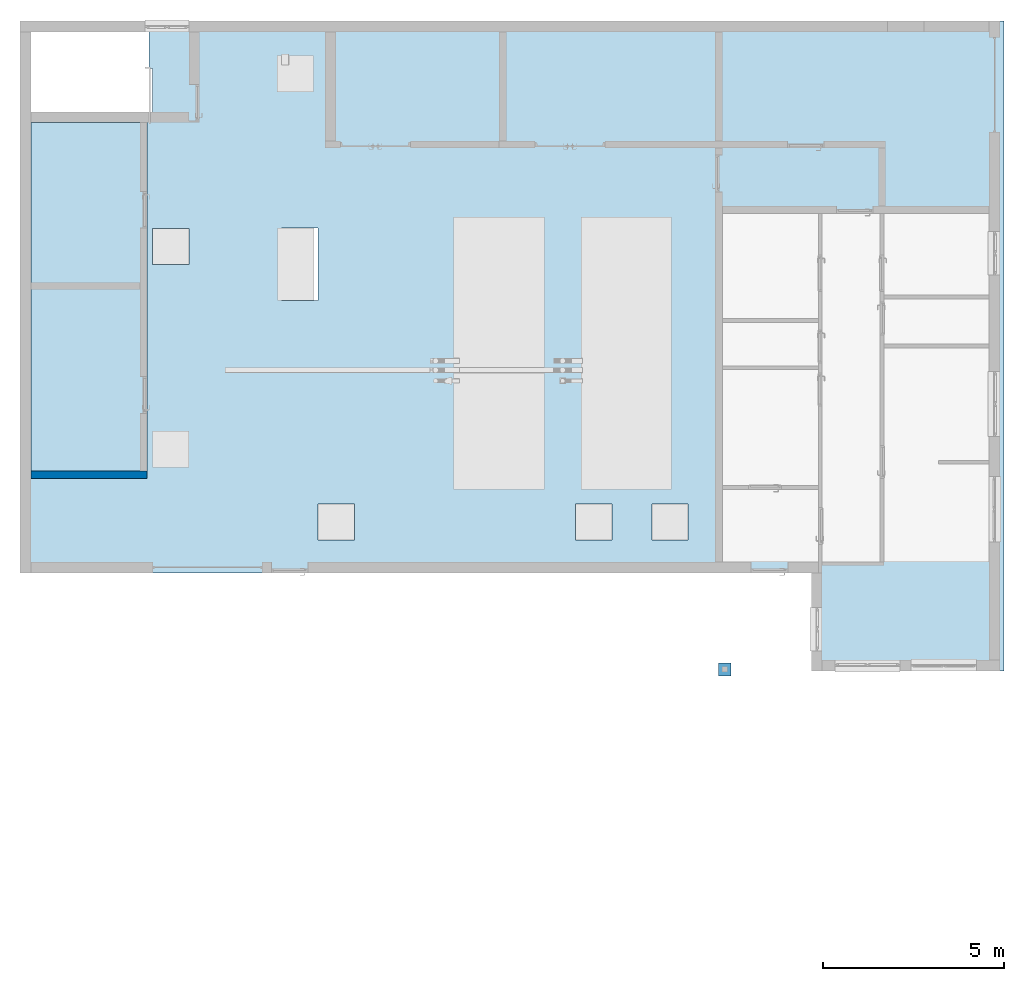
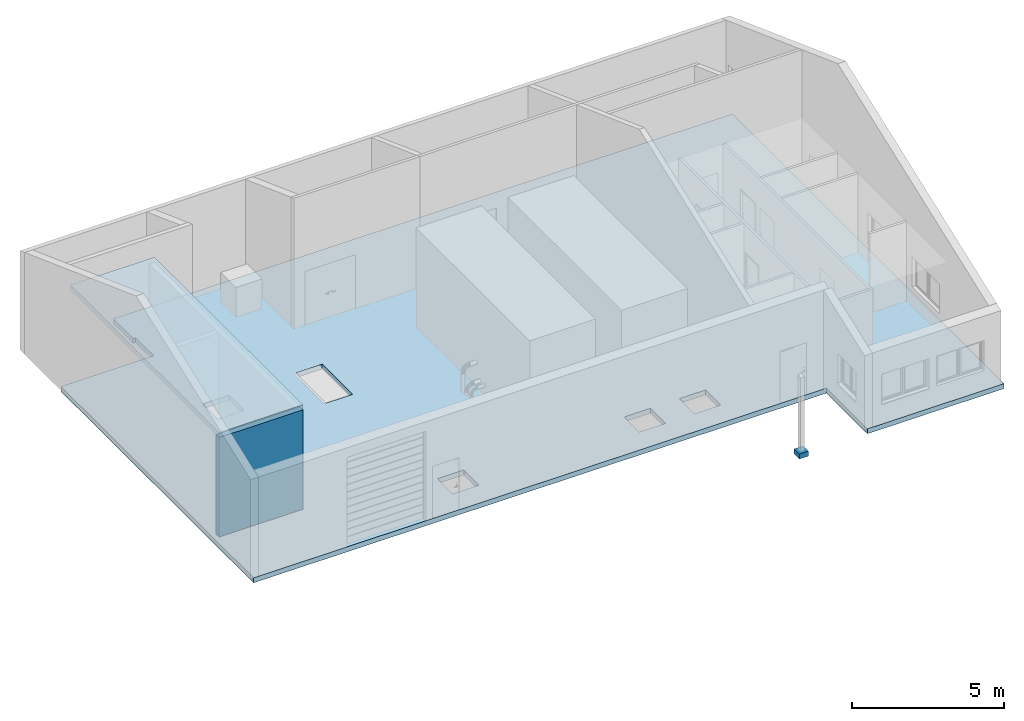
# One storey, part 1 of 23: 3 slabs, 1 wall, 5 openings.
"""IFC2X3 building model written with IfcOpenShell, lengths in millimetres."""

import ifcopenshell
import ifcopenshell.guid

model = None  # the IFC model being written
_history = None  # IfcOwnerHistory: only IFC2X3 demands one
_inside = {}  # id of a spatial element -> (the spatial element, [elements in it])
_under = {}  # id of a project, library or spatial element -> (it, [spatial elements below it])
_declared = {}  # id of a project -> (the project, [libraries it declares])
_typed = {}  # id of a type object -> (the type object, [elements of that type])
_made_of = {}  # id of a material, layer set ... -> (it, [elements and type objects made of it])


def new_model(schema):
    """Start an empty IFC model of exactly this schema.

    Asked for "IFC4X3", IfcOpenShell would pick the latest addendum, in which some entities
    have other attributes; the version numbers below select the first issue.
    IFC2X3 requires an IfcOwnerHistory on every rooted entity: one is made here for all.
    """
    global model, _history
    if schema == "IFC4X3":
        model = ifcopenshell.file(schema_version=(4, 3, 0, 0))
    else:
        model = ifcopenshell.file(schema=schema)
    _inside.clear()
    _under.clear()
    _declared.clear()
    _typed.clear()
    _made_of.clear()
    _history = None
    if model.schema == "IFC2X3":
        org = make("IfcOrganization", Name="unknown")
        user = make(
            "IfcPersonAndOrganization",
            ThePerson=make("IfcPerson", FamilyName="unknown"),
            TheOrganization=org,
        )
        app = make(
            "IfcApplication",
            ApplicationDeveloper=org,
            Version="unknown",
            ApplicationFullName="unknown",
            ApplicationIdentifier="unknown",
        )
        _history = make(
            "IfcOwnerHistory",
            OwningUser=user,
            OwningApplication=app,
            ChangeAction="ADDED",
            CreationDate=0,
        )
    return model


def make(cls, **values):
    """One entity of the class cls with the attributes given. An attribute that is None is left unset."""
    return model.create_entity(
        cls, **{name: value for name, value in values.items() if value is not None}
    )


def entity(cls, *values):
    """Any entity or typed value of the class cls, its attributes in the order of the schema. None: left unset."""
    e = model.create_entity(cls)
    for i, value in enumerate(values):
        if value is not None:
            e[i] = value
    return e


def rooted(cls, **values):
    """An entity with a GlobalId (a new one), such as an element, a storey or a relation."""
    return make(cls, GlobalId=ifcopenshell.guid.new(), OwnerHistory=_history, **values)


def si_unit(unit_type, name, prefix=None):
    """IfcSIUnit, for example si_unit("LENGTHUNIT", "METRE", prefix="MILLI")."""
    return make("IfcSIUnit", UnitType=unit_type, Prefix=prefix, Name=name)


def converted_unit(unit_type, name, factor, base, dimensions=None, offset=None):
    """IfcConversionBasedUnit, such as the inch: factor (a typed value) times the base unit."""
    return make(
        "IfcConversionBasedUnit"
        if offset is None
        else "IfcConversionBasedUnitWithOffset",
        ConversionOffset=offset,
        Dimensions=None
        if dimensions is None
        else entity("IfcDimensionalExponents", *dimensions),
        UnitType=unit_type,
        Name=name,
        ConversionFactor=make(
            "IfcMeasureWithUnit", ValueComponent=factor, UnitComponent=base
        ),
    )


def assignment(units):
    """IfcUnitAssignment: the units of a project."""
    return None if units is None else make("IfcUnitAssignment", Units=units)


def point(xyz):
    """IfcCartesianPoint."""
    return None if xyz is None else make("IfcCartesianPoint", Coordinates=xyz)


def direction(xyz):
    """IfcDirection."""
    return None if xyz is None else make("IfcDirection", DirectionRatios=xyz)


def frame(location, z_axis=None, x_axis=None):
    """IfcAxis2Placement3D, a coordinate frame: its origin and axes. An axis left out is left unset."""
    return make(
        "IfcAxis2Placement3D",
        Location=point(location),
        Axis=direction(z_axis),
        RefDirection=direction(x_axis),
    )


def frame_2d(location, x_axis=None):
    """IfcAxis2Placement2D, a coordinate frame in the plane: its origin and x axis."""
    return make(
        "IfcAxis2Placement2D", Location=point(location), RefDirection=direction(x_axis)
    )


def origin():
    """The frame at (0, 0, 0) with its axes left unset."""
    return frame((0.0, 0.0, 0.0))


def place(relative_to, where):
    """IfcLocalPlacement: puts the frame where relative to a parent placement (None: the world)."""
    return make(
        "IfcLocalPlacement", PlacementRelTo=relative_to, RelativePlacement=where
    )


def context(
    kind, dimensions, precision=None, world=None, true_north=None, identifier=None
):
    """IfcGeometricRepresentationContext, for example the 3D "Model" context."""
    return make(
        "IfcGeometricRepresentationContext",
        ContextIdentifier=identifier,
        ContextType=kind,
        CoordinateSpaceDimension=dimensions,
        Precision=precision,
        WorldCoordinateSystem=world,
        TrueNorth=true_north,
    )


def subcontext(parent, identifier, kind, view, scale=None):
    """IfcGeometricRepresentationSubContext, for example "Body" below "Model"."""
    return make(
        "IfcGeometricRepresentationSubContext",
        ContextIdentifier=identifier,
        ContextType=kind,
        ParentContext=parent,
        TargetScale=scale,
        TargetView=view,
    )


def project(units=None, contexts=None):
    """IfcProject with its units and contexts."""
    return rooted(
        "IfcProject",
        Name="project",
        RepresentationContexts=contexts,
        UnitsInContext=assignment(units),
    )


def spatial(cls, under=None, at=None, **own):
    """A site, building, storey or space (cls), placed at a placement, below another one or the project."""
    s = rooted(cls, ObjectPlacement=at, **own)
    if under is not None:
        _under.setdefault(under.id(), (under, []))[1].append(s)
    return s


def polyline(points):
    """IfcPolyline through the points."""
    return make("IfcPolyline", Points=[point(p) for p in points])


def profile(cls, at=None, kind="AREA", **sizes):
    """A parametric profile (cls). Its sizes go by their IFC names, for example OverallWidth=200.0."""
    return make(cls, ProfileType=kind, Position=at, **sizes)


def rectangle(**sizes):
    """IfcRectangleProfileDef."""
    return profile("IfcRectangleProfileDef", **sizes)


def outline(outer, holes=None, kind="AREA"):
    """IfcArbitraryClosedProfileDef: a profile drawn as a closed curve; with holes, ...WithVoids."""
    if holes is None:
        return make("IfcArbitraryClosedProfileDef", ProfileType=kind, OuterCurve=outer)
    return make(
        "IfcArbitraryProfileDefWithVoids",
        ProfileType=kind,
        OuterCurve=outer,
        InnerCurves=holes,
    )


def extrude(swept, where, along, depth):
    """IfcExtrudedAreaSolid: the profile swept, set in the frame where, extruded along a direction by depth."""
    return make(
        "IfcExtrudedAreaSolid",
        SweptArea=swept,
        Position=where,
        ExtrudedDirection=direction(along),
        Depth=depth,
    )


def boolean(op, a, b):
    """IfcBooleanResult of two solids."""
    return make("IfcBooleanResult", Operator=op, FirstOperand=a, SecondOperand=b)


def shape(context_of_items, identifier, shape_type, items):
    """IfcShapeRepresentation: the items that make up one representation, for example the "Body"."""
    return make(
        "IfcShapeRepresentation",
        ContextOfItems=context_of_items,
        RepresentationIdentifier=identifier,
        RepresentationType=shape_type,
        Items=items,
    )


def material(Name=None, Category=None):
    """IfcMaterial."""
    return make("IfcMaterial", Name=Name, Category=Category)


def layer(
    of_material, thickness, ventilated=None, Name=None, Category=None, Priority=None
):
    """IfcMaterialLayer: one layer of a wall or slab, of a material (None: an air gap)."""
    return make(
        "IfcMaterialLayer",
        Material=of_material,
        LayerThickness=thickness,
        IsVentilated=ventilated,
        Name=Name,
        Category=Category,
        Priority=Priority,
    )


def layer_set(layers, Name=None):
    """IfcMaterialLayerSet."""
    return make("IfcMaterialLayerSet", MaterialLayers=layers, LayerSetName=Name)


def layer_usage(for_layer_set, set_direction, sense, offset, extent=None):
    """IfcMaterialLayerSetUsage: how a layer set lies in its element."""
    return make(
        "IfcMaterialLayerSetUsage",
        ForLayerSet=for_layer_set,
        LayerSetDirection=set_direction,
        DirectionSense=sense,
        OffsetFromReferenceLine=offset,
        ReferenceExtent=extent,
    )


def made_of(thing, what):
    """Note that an element or type object is made of a material, layer set ...; save() writes the relation."""
    if what is not None:
        _made_of.setdefault(what.id(), (what, []))[1].append(thing)
    return thing


def type_object(cls, material=None, **own):
    """A type object (cls), such as IfcWallType, which elements share."""
    return made_of(rooted(cls, **own), material)


def element(
    cls,
    number,
    at=None,
    inside=None,
    cuts=None,
    type_object=None,
    material=None,
    context=None,
    identifier="Body",
    shape_type=None,
    held_by="IfcProductDefinitionShape",
    body=None,
    shapes=None,
    **own,
):
    """One element of the class cls, such as IfcWall. Its Tag is "e" and its number.

    at: its placement. inside: the storey or other place that contains it. cuts: it is an
    opening in that element (IfcRelVoidsElement). A single representation is given by context,
    identifier, shape_type and body (its items); several are given by shapes. held_by: the class
    of the entity that holds the representations. save() writes the other relations.
    """
    e = rooted(cls, Tag="e%d" % number, ObjectPlacement=at, **own)
    if body is not None:
        shapes = [shape(context, identifier, shape_type, body)]
    if shapes is not None:
        e.Representation = make(held_by, Representations=shapes)
    if inside is not None:
        _inside.setdefault(inside.id(), (inside, []))[1].append(e)
    if cuts is not None:
        rooted(
            "IfcRelVoidsElement", RelatingBuildingElement=cuts, RelatedOpeningElement=e
        )
    if type_object is not None:
        _typed.setdefault(type_object.id(), (type_object, []))[1].append(e)
    return made_of(e, material)


def aggregate(whole, parts):
    """IfcRelAggregates: a whole, such as a stair, and the parts it consists of."""
    return rooted("IfcRelAggregates", RelatingObject=whole, RelatedObjects=parts)


def save(model, path):
    """Write the relations noted so far, then the file.

    IfcRelAggregates (storeys below a building ...), IfcRelContainedInSpatialStructure (elements
    in a storey), IfcRelDefinesByType, IfcRelAssociatesMaterial and IfcRelDeclares: one each for
    every whole, place, type object, material and project.
    """
    for whole, parts in _under.values():
        aggregate(whole, parts)
    for where, things in _inside.values():
        rooted(
            "IfcRelContainedInSpatialStructure",
            RelatedElements=things,
            RelatingStructure=where,
        )
    for kind, things in _typed.values():
        rooted("IfcRelDefinesByType", RelatedObjects=things, RelatingType=kind)
    for what, things in _made_of.values():
        rooted("IfcRelAssociatesMaterial", RelatedObjects=things, RelatingMaterial=what)
    for by, libraries in _declared.values():
        rooted("IfcRelDeclares", RelatingContext=by, RelatedDefinitions=libraries)
    model.write(path)


model = new_model("IFC2X3")

# Units and contexts
model_context = context("Model", 3, precision=0.01, world=origin(), true_north=direction((6.123031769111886e-17, 1.0)))
body_context = subcontext(model_context, "Body", "Model", "MODEL_VIEW")
ifc_project = project(units=[si_unit("LENGTHUNIT", "METRE", prefix="MILLI"), converted_unit("PLANEANGLEUNIT", "DEGREE", entity("IfcPlaneAngleMeasure", 0.017453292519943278), si_unit("PLANEANGLEUNIT", "RADIAN"), dimensions=[0, 0, 0, 0, 0, 0, 0]), si_unit("AREAUNIT", "SQUARE_METRE")], contexts=[model_context])

# Site, building, storey
site_placement = place(None, frame((7776.576483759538, 118.3519876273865, 0.0)))
site = spatial("IfcSite", under=ifc_project, at=site_placement, Name="Default", CompositionType="ELEMENT")
building_placement = place(site_placement, origin())
building = spatial("IfcBuilding", under=site, at=building_placement, Name="Bygning (endres i Project Information)", CompositionType="ELEMENT")
storey_placement = place(building_placement, frame((0.0, 0.0, 19000.0)))
storey = spatial("IfcBuildingStorey", under=building, at=storey_placement, Name="Plan 01", CompositionType="ELEMENT", Elevation=19000.0)

# Slab, openings
ifc_material_1 = material(Name="Default Floor")
ifc_layer_1 = layer(ifc_material_1, 200.0)
ifc_layer_set_1 = layer_set([ifc_layer_1], Name="Floor:Generic 200mm")
ifc_layer_usage_1 = layer_usage(ifc_layer_set_1, "AXIS3", "POSITIVE", 0.0)
slab_type = type_object("IfcSlabType", Name="Floor:Generic 200mm", PredefinedType="FLOOR", material=ifc_layer_set_1)
slab_1_placement = place(storey_placement, origin())
slab_1 = element("IfcSlab", 1, at=slab_1_placement, inside=storey, type_object=slab_type, material=ifc_layer_usage_1, Name="Floor:Generic 200mm", ObjectType="Floor:Generic 200mm", PredefinedType="FLOOR", context=body_context, shape_type="SweptSolid", body=[
    boolean("DIFFERENCE", boolean("DIFFERENCE", boolean("DIFFERENCE", boolean("DIFFERENCE", boolean("DIFFERENCE", extrude(outline(polyline([(-7817.499999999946, -11155.0), (4882.500000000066, -11155.0), (4882.500000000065, -7620.0), (6070.0, -7620.0), (6070.0, -7715.0), (7382.499999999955, -7715.0), (7382.499999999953, 15845.0), (-10517.499999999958, 15845.0), (-10517.499999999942, 10645.0), (-7817.499999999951, 10645.0), (-7817.499999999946, -11155.0)])), frame((24139.001374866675, 27215.25730578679, 0.0), z_axis=(0.0, 0.0, -1.0), x_axis=(0.0, 1.0, 0.0)), (0.0, 0.0, 1.0), 200.0), extrude(rectangle(XDim=1000.0000000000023, YDim=1000.0000000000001, at=frame_2d((-2.1600499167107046e-12, -1.0800249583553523e-12), x_axis=(1.0, 0.0))), frame((17024.001374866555, 28387.757305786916, -200.0), z_axis=(0.0, 0.0, 1.0), x_axis=(0.0, 1.0, 0.0)), (0.0, 0.0, 1.0), 200.0)), extrude(rectangle(XDim=2000.0000000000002, YDim=999.999999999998, at=frame_2d((2.1600499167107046e-12, 0.0), x_axis=(1.0, 0.0))), frame((20584.00137486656, 27897.757305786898, -200.0), z_axis=(0.0, 0.0, 1.0), x_axis=(0.0, 1.0, 0.0)), (0.0, 0.0, 1.0), 200.0)), extrude(rectangle(XDim=1000.0000000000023, YDim=999.999999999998, at=frame_2d((2.1600499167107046e-12, 0.0), x_axis=(1.0, 0.0))), frame((21584.00137486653, 20797.757305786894, -200.0), z_axis=(0.0, 0.0, 1.0), x_axis=(0.0, 1.0, 0.0)), (0.0, 0.0, 1.0), 200.0)), extrude(rectangle(XDim=1000.0000000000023, YDim=1000.0000000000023, at=frame_2d((2.1600499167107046e-12, -2.1600499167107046e-12), x_axis=(1.0, 0.0))), frame((28684.001374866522, 20797.757305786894, -200.0), z_axis=(0.0, 0.0, 1.0), x_axis=(0.0, 1.0, 0.0)), (0.0, 0.0, 1.0), 200.0)), extrude(rectangle(XDim=1000.0000000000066, YDim=1000.0000000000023, at=frame_2d((0.0, -2.1600499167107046e-12), x_axis=(1.0, 0.0))), frame((30784.001374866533, 20797.757305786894, -200.0), z_axis=(0.0, 0.0, 1.0), x_axis=(0.0, 1.0, 0.0)), (0.0, 0.0, 1.0), 200.0)),
])
opening_1_placement = place(slab_1_placement, origin())
element("IfcOpeningElement", 2, at=opening_1_placement, cuts=slab_1, Name="Floor:Generic 200mm", ObjectType="Opening", context=body_context, shape_type="SweptSolid", body=[
    extrude(rectangle(XDim=2000.0000000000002, YDim=999.999999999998, at=frame_2d((-2.1600499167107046e-12, 0.0), x_axis=(1.0, 0.0))), frame((20584.00137486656, 27897.757305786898, 0.0), z_axis=(0.0, 0.0, 1.0), x_axis=(0.0, -1.0, 0.0)), (0.0, 0.0, -1.0), 200.0),
])
opening_2_placement = place(slab_1_placement, origin())
element("IfcOpeningElement", 3, at=opening_2_placement, cuts=slab_1, Name="Floor:Generic 200mm", ObjectType="Opening", context=body_context, shape_type="SweptSolid", body=[
    extrude(rectangle(XDim=1000.0000000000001, YDim=1000.0000000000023, at=frame_2d((1.0800249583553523e-12, -2.1600499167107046e-12), x_axis=(1.0, 0.0))), frame((17024.001374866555, 28387.757305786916, 0.0), z_axis=(0.0, 0.0, -1.0), x_axis=(-1.0, 0.0, 0.0)), (0.0, 0.0, 1.0), 200.0),
])
opening_3_placement = place(slab_1_placement, origin())
element("IfcOpeningElement", 4, at=opening_3_placement, cuts=slab_1, Name="Floor:Generic 200mm", ObjectType="Opening", context=body_context, shape_type="SweptSolid", body=[
    extrude(rectangle(XDim=1000.0000000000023, YDim=999.999999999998, at=frame_2d((-2.1600499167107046e-12, 0.0), x_axis=(1.0, 0.0))), frame((21584.00137486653, 20797.757305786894, 0.0), z_axis=(0.0, 0.0, -1.0), x_axis=(0.0, -1.0, 0.0)), (0.0, 0.0, 1.0), 200.0),
])
opening_4_placement = place(slab_1_placement, origin())
element("IfcOpeningElement", 5, at=opening_4_placement, cuts=slab_1, Name="Floor:Generic 200mm", ObjectType="Opening", context=body_context, shape_type="SweptSolid", body=[
    extrude(rectangle(XDim=1000.0000000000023, YDim=1000.0000000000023, at=frame_2d((-2.1600499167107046e-12, -2.1600499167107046e-12), x_axis=(1.0, 0.0))), frame((28684.001374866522, 20797.757305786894, 0.0), z_axis=(0.0, 0.0, -1.0), x_axis=(0.0, -1.0, 0.0)), (0.0, 0.0, 1.0), 200.0),
])
opening_5_placement = place(slab_1_placement, origin())
element("IfcOpeningElement", 6, at=opening_5_placement, cuts=slab_1, Name="Floor:Generic 200mm", ObjectType="Opening", context=body_context, shape_type="SweptSolid", body=[
    extrude(rectangle(XDim=1000.0000000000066, YDim=1000.0000000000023, at=frame_2d((0.0, -2.1600499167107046e-12), x_axis=(1.0, 0.0))), frame((30784.001374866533, 20797.757305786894, 0.0), z_axis=(0.0, 0.0, -1.0), x_axis=(0.0, -1.0, 0.0)), (0.0, 0.0, 1.0), 200.0),
])

# Slabs
ifc_layer_usage_2 = layer_usage(ifc_layer_set_1, "AXIS3", "POSITIVE", 0.0)
slab_2_placement = place(storey_placement, origin())
element("IfcSlab", 7, at=slab_2_placement, inside=storey, type_object=slab_type, material=ifc_layer_usage_2, Name="Floor:Generic 200mm", ObjectType="Floor:Generic 200mm", PredefinedType="FLOOR", context=body_context, shape_type="SweptSolid", body=[
    extrude(rectangle(XDim=9799.999999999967, YDim=3199.999999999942, at=frame_2d((-2.2737367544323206e-12, 3.183231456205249e-12), x_axis=(1.0, 0.0))), frame((14774.001374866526, 26897.7573057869, 4200.0), z_axis=(0.0, 0.0, -1.0), x_axis=(0.0, 1.0, 0.0)), (0.0, 0.0, 1.0), 199.99999999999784),
])
ifc_layer_usage_3 = layer_usage(ifc_layer_set_1, "AXIS3", "POSITIVE", 0.0)
slab_3_placement = place(storey_placement, origin())
element("IfcSlab", 8, at=slab_3_placement, inside=storey, type_object=slab_type, material=ifc_layer_usage_3, Name="Floor:Generic 200mm", ObjectType="Floor:Generic 200mm", PredefinedType="FLOOR", context=body_context, shape_type="SweptSolid", body=[
    extrude(rectangle(XDim=350.00000000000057, YDim=349.9999999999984, at=frame_2d((-1.0800249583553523e-12, 0.0), x_axis=(1.0, 0.0))), frame((32287.750118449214, 16732.839543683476, 0.0), z_axis=(0.0, 0.0, -1.0), x_axis=(0.0, 1.0, 0.0)), (0.0, 0.0, 1.0), 200.0),
])

# Wall
ifc_material_2 = material(Name="Default Wall")
ifc_layer_2 = layer(ifc_material_2, 200.0)
ifc_layer_set_2 = layer_set([ifc_layer_2], Name="Basic Wall:Generic - 200mm")
ifc_layer_usage_4 = layer_usage(ifc_layer_set_2, "AXIS2", "NEGATIVE", 100.0)
wall_type = type_object("IfcWallType", Name="Basic Wall:Generic - 200mm", PredefinedType="STANDARD", material=ifc_layer_set_2)
wall_placement = place(storey_placement, frame((13174.001374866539, 22097.757305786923, 0.0)))
element("IfcWallStandardCase", 9, at=wall_placement, inside=storey, type_object=wall_type, material=ifc_layer_usage_4, Name="Basic Wall:Generic - 200mm", ObjectType="Basic Wall:Generic - 200mm", context=body_context, shape_type="SweptSolid", body=[
    extrude(rectangle(XDim=3200.0000000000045, YDim=199.99999999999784, at=frame_2d((1600.0000000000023, 5.186961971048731e-13), x_axis=(-1.0, 0.0))), origin(), (0.0, 0.0, 1.0), 4000.0000000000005),
])

save(model, "model.ifc")
